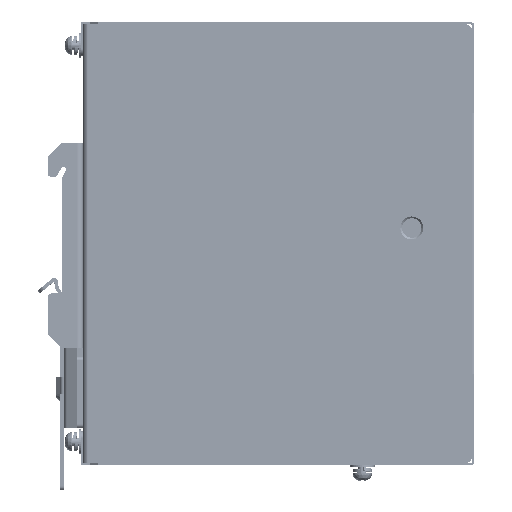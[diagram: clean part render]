
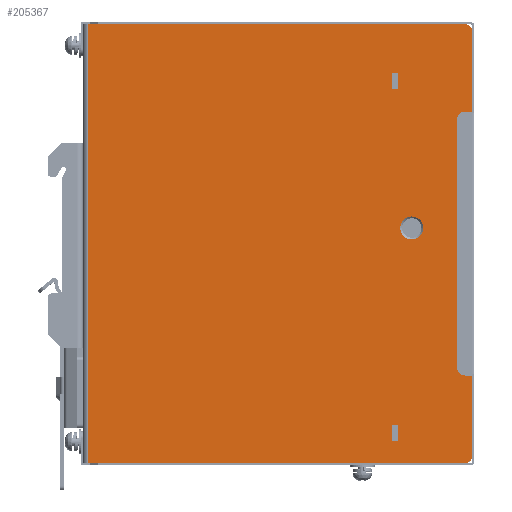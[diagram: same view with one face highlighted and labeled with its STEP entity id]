
A CAD part, top view. The second image highlights one B-rep face of the part: STEP entity #205367.
In plain terms, the highlighted planar face has unit normal (0, 0, 1) as drawn and (0, 0, -1) by its records, which use the part's own axes.
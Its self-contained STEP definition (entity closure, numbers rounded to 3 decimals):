
#205181=CARTESIAN_POINT('',(62.,62.,0.));
#205182=DIRECTION('',(1.,0.,0.));
#205183=DIRECTION('',(0.,0.,1.));
#205184=AXIS2_PLACEMENT_3D('',#205181,#205183,#205182);
#205185=PLANE('',#205184);
#205186=CARTESIAN_POINT('',(110.,122.,0.));
#205187=VERTEX_POINT('',#205186);
#205188=CARTESIAN_POINT('',(108.,124.,0.));
#205189=VERTEX_POINT('',#205188);
#205190=CARTESIAN_POINT('',(108.,122.,0.));
#205191=DIRECTION('',(1.,0.,0.));
#205192=DIRECTION('',(0.,0.,1.));
#205193=AXIS2_PLACEMENT_3D('',#205190,#205192,#205191);
#205194=CIRCLE('',#205193,2.);
#205195=EDGE_CURVE('',#205187,#205189,#205194,.T.);
#205196=ORIENTED_EDGE('E34',*,*,#205195,.T.);
#205197=CARTESIAN_POINT('',(1.5,124.,0.));
#205198=VERTEX_POINT('',#205197);
#205199=CARTESIAN_POINT('',(108.,124.,0.));
#205200=DIRECTION('',(-1.,0.,0.));
#205201=VECTOR('',#205200,106.5);
#205202=LINE('',#205199,#205201);
#205203=EDGE_CURVE('',#205189,#205198,#205202,.T.);
#205204=ORIENTED_EDGE('E3',*,*,#205203,.T.);
#205205=CARTESIAN_POINT('',(1.5,0.,0.));
#205206=VERTEX_POINT('',#205205);
#205207=CARTESIAN_POINT('',(1.5,124.,0.));
#205208=DIRECTION('',(0.,-1.,0.));
#205209=VECTOR('',#205208,124.);
#205210=LINE('',#205207,#205209);
#205211=EDGE_CURVE('',#205198,#205206,#205210,.T.);
#205212=ORIENTED_EDGE('E14',*,*,#205211,.T.);
#205213=CARTESIAN_POINT('',(108.,0.,0.));
#205214=VERTEX_POINT('',#205213);
#205215=CARTESIAN_POINT('',(1.5,0.,0.));
#205216=DIRECTION('',(1.,0.,0.));
#205217=VECTOR('',#205216,106.5);
#205218=LINE('',#205215,#205217);
#205219=EDGE_CURVE('',#205206,#205214,#205218,.T.);
#205220=ORIENTED_EDGE('E1',*,*,#205219,.T.);
#205221=CARTESIAN_POINT('',(110.,2.,0.));
#205222=VERTEX_POINT('',#205221);
#205223=CARTESIAN_POINT('',(108.,2.,0.));
#205224=DIRECTION('',(0.,-1.,0.));
#205225=DIRECTION('',(0.,-0.,1.));
#205226=AXIS2_PLACEMENT_3D('',#205223,#205225,#205224);
#205227=CIRCLE('',#205226,2.);
#205228=EDGE_CURVE('',#205214,#205222,#205227,.T.);
#205229=ORIENTED_EDGE('E30',*,*,#205228,.T.);
#205230=CARTESIAN_POINT('',(110.,24.7,0.));
#205231=VERTEX_POINT('',#205230);
#205232=CARTESIAN_POINT('',(110.,2.,0.));
#205233=DIRECTION('',(0.,1.,0.));
#205234=VECTOR('',#205233,22.7);
#205235=LINE('',#205232,#205234);
#205236=EDGE_CURVE('',#205222,#205231,#205235,.T.);
#205237=ORIENTED_EDGE('E2',*,*,#205236,.T.);
#205238=CARTESIAN_POINT('',(108.,24.7,0.));
#205239=VERTEX_POINT('',#205238);
#205240=CARTESIAN_POINT('',(110.,24.7,0.));
#205241=DIRECTION('',(-1.,0.,0.));
#205242=VECTOR('',#205241,2.);
#205243=LINE('',#205240,#205242);
#205244=EDGE_CURVE('',#205231,#205239,#205243,.T.);
#205245=ORIENTED_EDGE('E117',*,*,#205244,.T.);
#205246=CARTESIAN_POINT('',(105.7,27.,0.));
#205247=VERTEX_POINT('',#205246);
#205248=CARTESIAN_POINT('',(108.,27.,0.));
#205249=DIRECTION('',(0.,-1.,0.));
#205250=DIRECTION('',(0.,0.,-1.));
#205251=AXIS2_PLACEMENT_3D('',#205248,#205250,#205249);
#205252=CIRCLE('',#205251,2.3);
#205253=EDGE_CURVE('',#205239,#205247,#205252,.T.);
#205254=ORIENTED_EDGE('E118',*,*,#205253,.T.);
#205255=CARTESIAN_POINT('',(105.7,97.,0.));
#205256=VERTEX_POINT('',#205255);
#205257=CARTESIAN_POINT('',(105.7,27.,0.));
#205258=DIRECTION('',(0.,1.,0.));
#205259=VECTOR('',#205258,70.);
#205260=LINE('',#205257,#205259);
#205261=EDGE_CURVE('',#205247,#205256,#205260,.T.);
#205262=ORIENTED_EDGE('E119',*,*,#205261,.T.);
#205263=CARTESIAN_POINT('',(108.,99.3,0.));
#205264=VERTEX_POINT('',#205263);
#205265=CARTESIAN_POINT('',(108.,97.,0.));
#205266=DIRECTION('',(-1.,0.,0.));
#205267=DIRECTION('',(0.,0.,-1.));
#205268=AXIS2_PLACEMENT_3D('',#205265,#205267,#205266);
#205269=CIRCLE('',#205268,2.3);
#205270=EDGE_CURVE('',#205256,#205264,#205269,.T.);
#205271=ORIENTED_EDGE('E120',*,*,#205270,.T.);
#205272=CARTESIAN_POINT('',(110.,99.3,0.));
#205273=VERTEX_POINT('',#205272);
#205274=CARTESIAN_POINT('',(108.,99.3,0.));
#205275=DIRECTION('',(1.,0.,0.));
#205276=VECTOR('',#205275,2.);
#205277=LINE('',#205274,#205276);
#205278=EDGE_CURVE('',#205264,#205273,#205277,.T.);
#205279=ORIENTED_EDGE('E121',*,*,#205278,.T.);
#205280=CARTESIAN_POINT('',(110.,99.3,0.));
#205281=DIRECTION('',(0.,1.,0.));
#205282=VECTOR('',#205281,22.7);
#205283=LINE('',#205280,#205282);
#205284=EDGE_CURVE('',#205273,#205187,#205283,.T.);
#205285=ORIENTED_EDGE('E147',*,*,#205284,.T.);
#205286=EDGE_LOOP('',(#205196,#205204,#205212,#205220,#205229,#205237,#205245,#205254,#205262,#205271,#205279,#205285));
#205287=FACE_OUTER_BOUND('',#205286,.F.);
#205288=CARTESIAN_POINT('',(96.15,57.6,0.));
#205289=VERTEX_POINT('',#205288);
#205290=CARTESIAN_POINT('',(92.9,57.6,0.));
#205291=DIRECTION('',(1.,0.,-0.));
#205292=DIRECTION('',(0.,-0.,1.));
#205293=AXIS2_PLACEMENT_3D('',#205290,#205292,#205291);
#205294=CIRCLE('',#205293,3.25);
#205295=EDGE_CURVE('',#205289,#205289,#205294,.T.);
#205296=ORIENTED_EDGE('E96',*,*,#205295,.F.);
#205297=EDGE_LOOP('',(#205296));
#205298=FACE_BOUND('',#205297,.F.);
#205299=CARTESIAN_POINT('',(87.2,18.2,0.));
#205300=VERTEX_POINT('',#205299);
#205301=CARTESIAN_POINT('',(89.,18.2,0.));
#205302=VERTEX_POINT('',#205301);
#205303=CARTESIAN_POINT('',(87.2,18.2,0.));
#205304=DIRECTION('',(1.,0.,0.));
#205305=VECTOR('',#205304,1.8);
#205306=LINE('',#205303,#205305);
#205307=EDGE_CURVE('',#205300,#205302,#205306,.T.);
#205308=ORIENTED_EDGE('E73',*,*,#205307,.T.);
#205309=CARTESIAN_POINT('',(89.,13.8,0.));
#205310=VERTEX_POINT('',#205309);
#205311=CARTESIAN_POINT('',(89.,18.2,0.));
#205312=DIRECTION('',(0.,-1.,0.));
#205313=VECTOR('',#205312,4.4);
#205314=LINE('',#205311,#205313);
#205315=EDGE_CURVE('',#205302,#205310,#205314,.T.);
#205316=ORIENTED_EDGE('E70',*,*,#205315,.T.);
#205317=CARTESIAN_POINT('',(87.2,13.8,0.));
#205318=VERTEX_POINT('',#205317);
#205319=CARTESIAN_POINT('',(89.,13.8,0.));
#205320=DIRECTION('',(-1.,0.,0.));
#205321=VECTOR('',#205320,1.8);
#205322=LINE('',#205319,#205321);
#205323=EDGE_CURVE('',#205310,#205318,#205322,.T.);
#205324=ORIENTED_EDGE('E71',*,*,#205323,.T.);
#205325=CARTESIAN_POINT('',(87.2,13.8,0.));
#205326=DIRECTION('',(0.,1.,0.));
#205327=VECTOR('',#205326,4.4);
#205328=LINE('',#205325,#205327);
#205329=EDGE_CURVE('',#205318,#205300,#205328,.T.);
#205330=ORIENTED_EDGE('E72',*,*,#205329,.T.);
#205331=EDGE_LOOP('',(#205308,#205316,#205324,#205330));
#205332=FACE_BOUND('',#205331,.F.);
#205333=CARTESIAN_POINT('',(87.2,113.3,0.));
#205334=VERTEX_POINT('',#205333);
#205335=CARTESIAN_POINT('',(87.2,117.7,0.));
#205336=VERTEX_POINT('',#205335);
#205337=CARTESIAN_POINT('',(87.2,113.3,0.));
#205338=DIRECTION('',(0.,1.,0.));
#205339=VECTOR('',#205338,4.4);
#205340=LINE('',#205337,#205339);
#205341=EDGE_CURVE('',#205334,#205336,#205340,.T.);
#205342=ORIENTED_EDGE('E80',*,*,#205341,.T.);
#205343=CARTESIAN_POINT('',(89.,117.7,0.));
#205344=VERTEX_POINT('',#205343);
#205345=CARTESIAN_POINT('',(87.2,117.7,0.));
#205346=DIRECTION('',(1.,0.,0.));
#205347=VECTOR('',#205346,1.8);
#205348=LINE('',#205345,#205347);
#205349=EDGE_CURVE('',#205336,#205344,#205348,.T.);
#205350=ORIENTED_EDGE('E81',*,*,#205349,.T.);
#205351=CARTESIAN_POINT('',(89.,113.3,0.));
#205352=VERTEX_POINT('',#205351);
#205353=CARTESIAN_POINT('',(89.,117.7,0.));
#205354=DIRECTION('',(0.,-1.,0.));
#205355=VECTOR('',#205354,4.4);
#205356=LINE('',#205353,#205355);
#205357=EDGE_CURVE('',#205344,#205352,#205356,.T.);
#205358=ORIENTED_EDGE('E78',*,*,#205357,.T.);
#205359=CARTESIAN_POINT('',(89.,113.3,0.));
#205360=DIRECTION('',(-1.,0.,0.));
#205361=VECTOR('',#205360,1.8);
#205362=LINE('',#205359,#205361);
#205363=EDGE_CURVE('',#205352,#205334,#205362,.T.);
#205364=ORIENTED_EDGE('E79',*,*,#205363,.T.);
#205365=EDGE_LOOP('',(#205342,#205350,#205358,#205364));
#205366=FACE_BOUND('',#205365,.F.);
#205367=ADVANCED_FACE('F1',(#205287,#205298,#205332,#205366),#205185,.F.);
